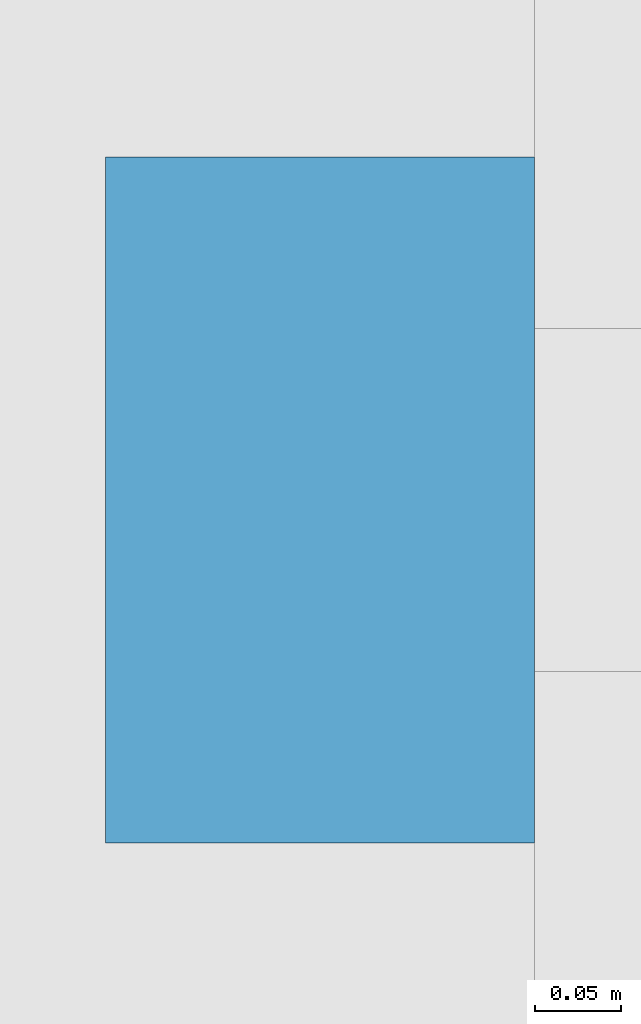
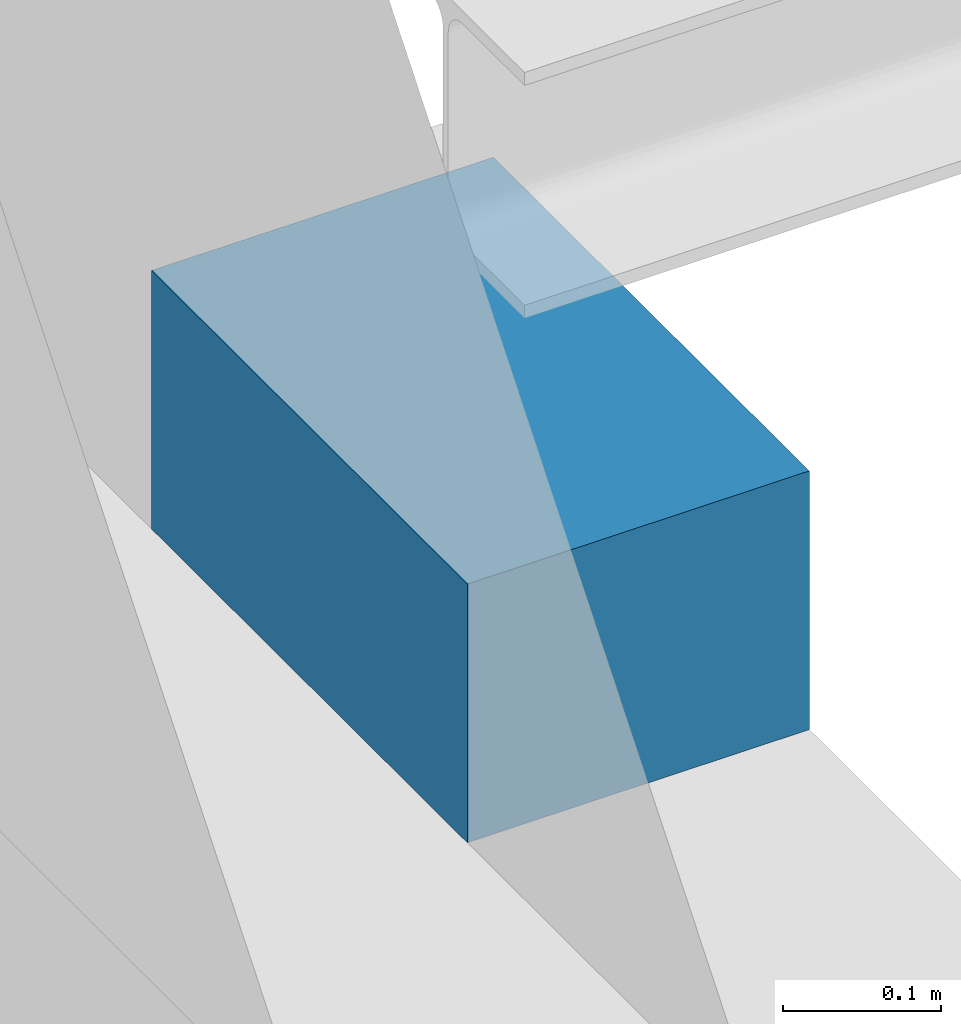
# One storey, part 1 of 29: 1 footing.
"""IFC2X3 building model written with IfcOpenShell, lengths in millimetres."""

from ifc_helpers import new_model, entity, si_unit, converted_unit, derived_unit, direction, frame, frame_2d, origin, place, context, subcontext, project, spatial, rectangle, extrude, source, transform, mapped, material, type_object, type_shapes, element, save


model = new_model("IFC2X3")

# Units and contexts
model_context = context("Model", 3, precision=0.01, world=origin(), true_north=direction((6.12303176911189e-17, 1.0)))
body_context = subcontext(model_context, "Body", "Model", "MODEL_VIEW")
ifc_project = project(units=[si_unit("LENGTHUNIT", "METRE", prefix="MILLI"), si_unit("AREAUNIT", "SQUARE_METRE", prefix="MILLI"), si_unit("VOLUMEUNIT", "CUBIC_METRE"), converted_unit("PLANEANGLEUNIT", "DEGREE", entity("IfcRatioMeasure", 0.0174532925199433), si_unit("PLANEANGLEUNIT", "RADIAN"), dimensions=[0, 0, 0, 0, 0, 0, 0]), si_unit("MASSUNIT", "GRAM", prefix="KILO"), derived_unit("MASSDENSITYUNIT", [(si_unit("MASSUNIT", "GRAM", prefix="KILO"), 1), (si_unit("LENGTHUNIT", "METRE"), -3)]), derived_unit("MOMENTOFINERTIAUNIT", [(si_unit("LENGTHUNIT", "METRE"), 4)]), si_unit("TIMEUNIT", "SECOND"), si_unit("FREQUENCYUNIT", "HERTZ"), si_unit("THERMODYNAMICTEMPERATUREUNIT", "DEGREE_CELSIUS"), derived_unit("THERMALTRANSMITTANCEUNIT", [(si_unit("MASSUNIT", "GRAM", prefix="KILO"), 1), (si_unit("THERMODYNAMICTEMPERATUREUNIT", "KELVIN"), -1), (si_unit("TIMEUNIT", "SECOND"), -3)]), derived_unit("VOLUMETRICFLOWRATEUNIT", [(si_unit("LENGTHUNIT", "METRE"), 3), (si_unit("TIMEUNIT", "SECOND"), -1)]), si_unit("ELECTRICCURRENTUNIT", "AMPERE"), si_unit("ELECTRICVOLTAGEUNIT", "VOLT"), si_unit("POWERUNIT", "WATT"), si_unit("FORCEUNIT", "NEWTON", prefix="KILO"), si_unit("ILLUMINANCEUNIT", "LUX"), si_unit("LUMINOUSFLUXUNIT", "LUMEN"), si_unit("LUMINOUSINTENSITYUNIT", "CANDELA"), derived_unit("USERDEFINED", [(si_unit("MASSUNIT", "GRAM", prefix="KILO"), -1), (si_unit("LENGTHUNIT", "METRE"), -2), (si_unit("TIMEUNIT", "SECOND"), 3), (si_unit("LUMINOUSFLUXUNIT", "LUMEN"), 1)]), derived_unit("LINEARVELOCITYUNIT", [(si_unit("LENGTHUNIT", "METRE"), 1), (si_unit("TIMEUNIT", "SECOND"), -1)]), si_unit("PRESSUREUNIT", "PASCAL"), derived_unit("USERDEFINED", [(si_unit("LENGTHUNIT", "METRE"), -2), (si_unit("MASSUNIT", "GRAM", prefix="KILO"), 1), (si_unit("TIMEUNIT", "SECOND"), -2)]), derived_unit("LINEARFORCEUNIT", [(si_unit("MASSUNIT", "GRAM", prefix="KILO"), 1), (si_unit("LENGTHUNIT", "METRE"), 1), (si_unit("TIMEUNIT", "SECOND"), -2), (si_unit("LENGTHUNIT", "METRE"), -1)]), derived_unit("PLANARFORCEUNIT", [(si_unit("MASSUNIT", "GRAM", prefix="KILO"), 1), (si_unit("LENGTHUNIT", "METRE"), 1), (si_unit("TIMEUNIT", "SECOND"), -2), (si_unit("LENGTHUNIT", "METRE"), -2)])], contexts=[model_context])

# Site, building, storey
site_placement = place(None, origin())
site = spatial("IfcSite", under=ifc_project, at=site_placement, Name="Theater aan de Parade", CompositionType="ELEMENT")
building_placement = place(site_placement, origin())
building = spatial("IfcBuilding", under=site, at=building_placement, Name="Theater aan de Parade", CompositionType="ELEMENT")
storey_placement = place(building_placement, frame((0.0, 0.0, 20300.0)))
storey = spatial("IfcBuildingStorey", under=building, at=storey_placement, Name="05 vijfde verdieping", CompositionType="ELEMENT", Elevation=20300.0)

# Footing
ifc_material = material(Name="00_PBT_MAT_beton t.p.g._C30/37")
type_product = type_object("IfcTypeProduct", Name="16_PBT_SC_beton_opstort_rechthoekig:C30/37_250x400", material=ifc_material)
shared_shape = source(origin(), body_context, "Body", "SweptSolid", [
    extrude(rectangle(XDim=249.999999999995, YDim=399.999999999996, at=frame_2d((8.66151594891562e-12, -8.66862137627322e-12), x_axis=(1.0, 0.0))), frame((86430.0, 47559.7383176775, 19730.0), z_axis=(0.0, 0.0, 1.0), x_axis=(-1.0, 0.0, 0.0)), (0.0, 0.0, 1.0), 200.000000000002),
])
type_shapes(type_product, [shared_shape])
footing_placement = place(storey_placement, frame((0.0, 0.0, -20300.0)))
element("IfcFooting", 1, at=footing_placement, inside=storey, type_object=type_product, material=ifc_material, Name="16_PBT_SC_beton_opstort_rechthoekig:C30/37_250x400", ObjectType="16_PBT_SC_beton_opstort_rechthoekig:C30/37_250x400", context=body_context, shape_type="MappedRepresentation", body=[
    mapped(shared_shape, transform((0.0, 0.0, 0.0), scale=1.0)),
])

save(model, "model.ifc")
